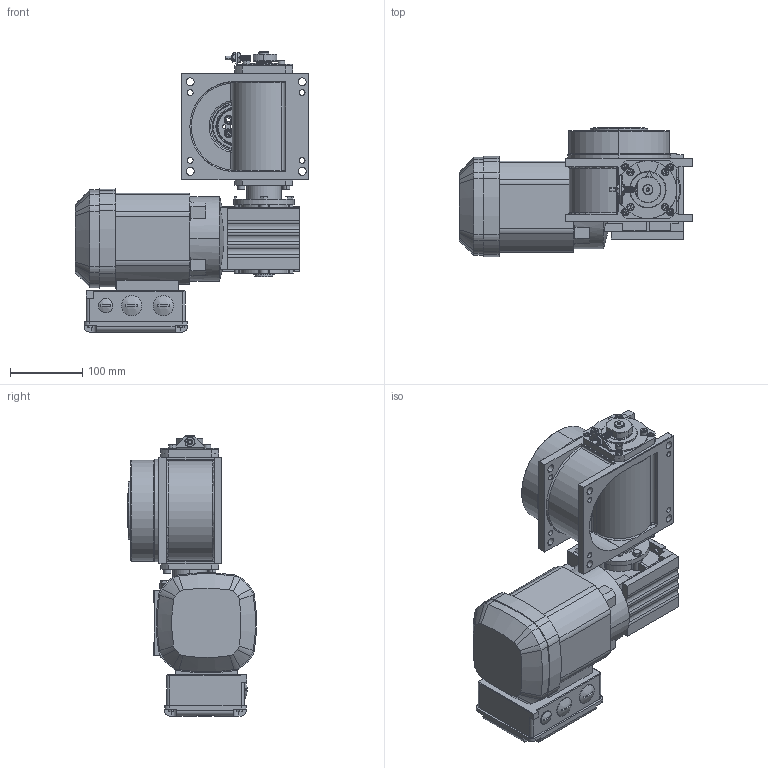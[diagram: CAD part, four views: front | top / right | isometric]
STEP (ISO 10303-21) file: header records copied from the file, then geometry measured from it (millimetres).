
FILE_DESCRIPTION (( 'STEP AP214' ), '1' );
FILE_NAME ('M140_SEW_WA20_D.STEP', '2021-01-22T15:31:25', ( '' ), ( '' ), 'SwSTEP 2.0', 'SolidWorks 2020', '' );
FILE_SCHEMA (( 'AUTOMOTIVE_DESIGN' ));
Length unit declared in the file: millimetre
Products named in the file (1): M140_SEW_WA20_D
Bounding box: 323 x 178.34 x 387.75 mm (x, y, z)
Surface area: 429604.8 mm2 (no closed solid volume)
Topology: 0 solids, 48 shells, 1132 faces, 3502 edges, 2329 vertices
Faces by surface type: plane 516, cylinder 406, cone 101, bspline 63, torus 46
Entity records: 58074 total; most frequent: CARTESIAN_POINT 15060, DIRECTION 6320, ORIENTED_EDGE 6060, EDGE_CURVE 3474, VERTEX_POINT 2329, AXIS2_PLACEMENT_3D 2204, VECTOR 1912, LINE 1912
